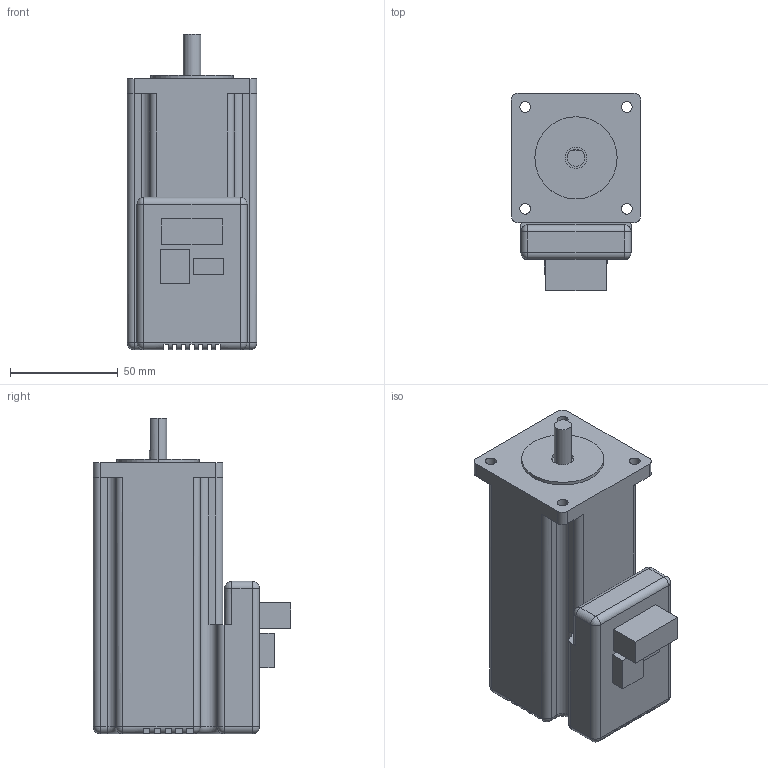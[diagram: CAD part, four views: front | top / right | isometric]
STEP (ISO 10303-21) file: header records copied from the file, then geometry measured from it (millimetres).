
FILE_DESCRIPTION((''),'2;1');
FILE_NAME('CU_ISM-7413','2014-08-01T',('jbuhisan'),(''),'PRO/ENGINEER BY PARAMETRIC TECHNOLOGY CORPORATION, 2014000','PRO/ENGINEER BY PARAMETRIC TECHNOLOGY CORPORATION, 2014000','');
FILE_SCHEMA(('CONFIG_CONTROL_DESIGN'));
Length unit declared in the file: centimetre
Products named in the file (1): CU_ISM-7413
Bounding box: 60 x 91.5 x 146.2 mm (x, y, z)
Volume: 465553.4 mm3; surface area: 47709.4 mm2
Topology: 1 solids, 1 shells, 182 faces, 536 edges, 348 vertices
Faces by surface type: plane 112, cylinder 52, sphere 14, torus 4
Entity records: 6090 total; most frequent: DIRECTION 1096, CARTESIAN_POINT 1052, ORIENTED_EDGE 1044, EDGE_CURVE 522, AXIS2_PLACEMENT_3D 392, VERTEX_POINT 348, VECTOR 312, LINE 312
